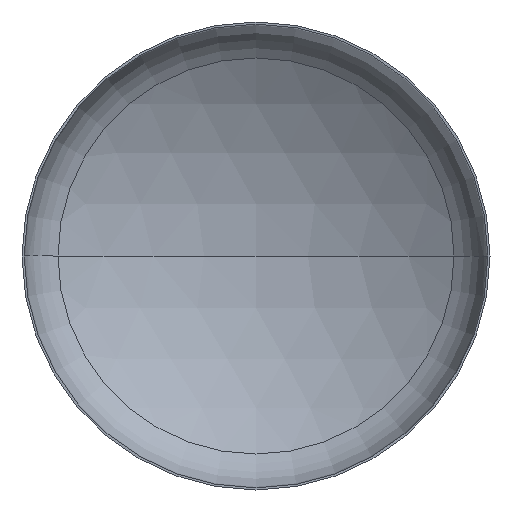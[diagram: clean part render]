
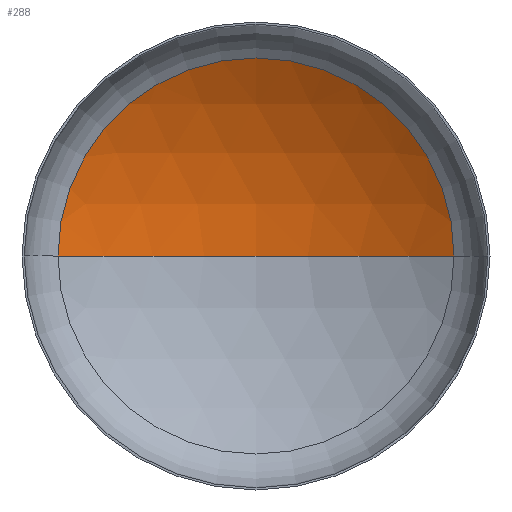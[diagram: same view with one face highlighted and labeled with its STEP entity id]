
A CAD part, front view. The second image highlights one B-rep face of the part: STEP entity #288.
In plain terms, the highlighted spherical face has radius 2560 mm.
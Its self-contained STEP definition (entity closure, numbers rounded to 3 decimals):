
#8 = CARTESIAN_POINT ( 'NONE',  ( 0., 460.829, 0. ) ) ;
#26 = VERTEX_POINT ( 'NONE', #295 ) ;
#28 = EDGE_LOOP ( 'NONE', ( #43, #162, #172 ) ) ;
#43 = ORIENTED_EDGE ( 'NONE', *, *, #190, .F. ) ;
#53 = AXIS2_PLACEMENT_3D ( 'NONE', #136, #131, #271 ) ;
#58 = VERTEX_POINT ( 'NONE', #247 ) ;
#61 = AXIS2_PLACEMENT_3D ( 'NONE', #240, #239, #175 ) ;
#65 = AXIS2_PLACEMENT_3D ( 'NONE', #266, #264, #285 ) ;
#75 = AXIS2_PLACEMENT_3D ( 'NONE', #8, #221, #382 ) ;
#115 = CIRCLE ( 'NONE', #75, 1354.203 ) ;
#127 = VERTEX_POINT ( 'NONE', #236 ) ;
#131 = DIRECTION ( 'NONE',  ( 0., 0., -1. ) ) ;
#136 = CARTESIAN_POINT ( 'NONE',  ( 0., -1711.666, 0. ) ) ;
#142 = EDGE_CURVE ( 'NONE', #26, #58, #115, .T. ) ;
#162 = ORIENTED_EDGE ( 'NONE', *, *, #168, .T. ) ;
#168 = EDGE_CURVE ( 'NONE', #127, #26, #393, .T. ) ;
#172 = ORIENTED_EDGE ( 'NONE', *, *, #142, .T. ) ;
#175 = DIRECTION ( 'NONE',  ( 1., 0., 0. ) ) ;
#190 = EDGE_CURVE ( 'NONE', #127, #58, #210, .T. ) ;
#210 = CIRCLE ( 'NONE', #61, 2560. ) ;
#221 = DIRECTION ( 'NONE',  ( 0., -1., 0. ) ) ;
#236 = CARTESIAN_POINT ( 'NONE',  ( 0., 848.334, 0. ) ) ;
#239 = DIRECTION ( 'NONE',  ( 0., 0., 1. ) ) ;
#240 = CARTESIAN_POINT ( 'NONE',  ( 0., -1711.666, 0. ) ) ;
#247 = CARTESIAN_POINT ( 'NONE',  ( -1354.203, 460.829, 0. ) ) ;
#264 = DIRECTION ( 'NONE',  ( 0., 0., -1. ) ) ;
#266 = CARTESIAN_POINT ( 'NONE',  ( 0., -1711.666, 0. ) ) ;
#271 = DIRECTION ( 'NONE',  ( -1., 0., 0. ) ) ;
#285 = DIRECTION ( 'NONE',  ( -1., 0., 0. ) ) ;
#288 = ADVANCED_FACE ( 'NONE', ( #320 ), #373, .F. ) ;
#295 = CARTESIAN_POINT ( 'NONE',  ( 1354.203, 460.829, 0. ) ) ;
#320 = FACE_OUTER_BOUND ( 'NONE', #28, .T. ) ;
#373 = SPHERICAL_SURFACE ( 'NONE', #53, 2560. ) ;
#382 = DIRECTION ( 'NONE',  ( 1., 0., 0. ) ) ;
#393 = CIRCLE ( 'NONE', #65, 2560. ) ;
